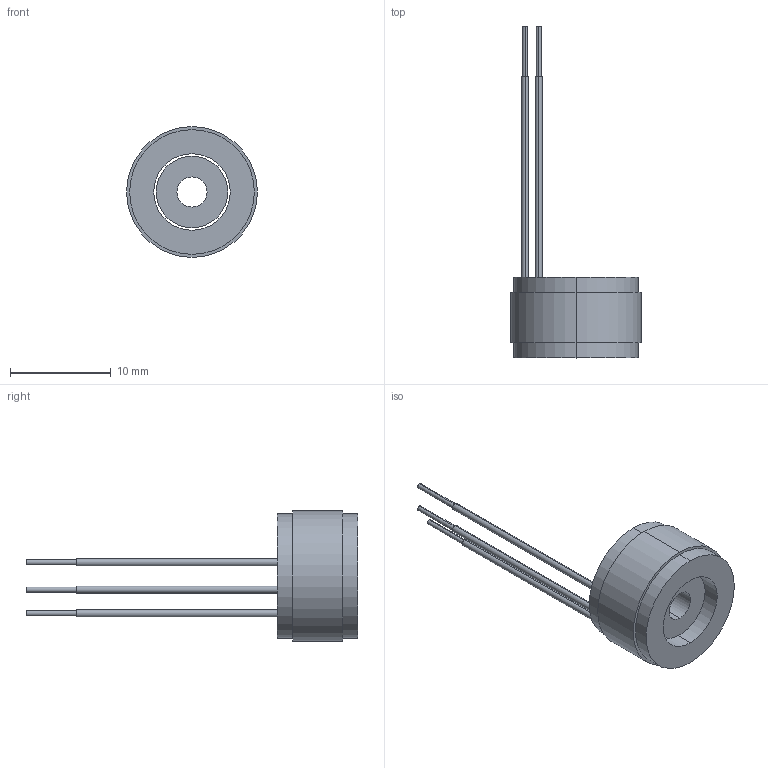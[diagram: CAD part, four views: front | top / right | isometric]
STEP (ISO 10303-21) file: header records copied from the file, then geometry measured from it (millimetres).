
FILE_DESCRIPTION (( 'STEP AP214' ), '1' );
FILE_NAME ('无框力矩电机 U01308000000 3D模型.STEP', '2026-10-15T08:26:24', ( 'Windows User' ), ( 'P R C' ), 'SwSTEP 2.0', 'SolidWorks 2023', '' );
FILE_SCHEMA (( 'AUTOMOTIVE_DESIGN' ));
Length unit declared in the file: millimetre
Products named in the file (1): 无框力矩电机 U01308000000 3D模型
Bounding box: 13 x 33 x 13 mm (x, y, z)
Volume: 854.9 mm3; surface area: 1069.2 mm2
Topology: 2 solids, 2 shells, 36 faces, 72 edges, 48 vertices
Faces by surface type: cylinder 24, plane 12
Entity records: 1004 total; most frequent: DIRECTION 194, CARTESIAN_POINT 157, ORIENTED_EDGE 144, AXIS2_PLACEMENT_3D 85, EDGE_CURVE 72, VERTEX_POINT 48, CIRCLE 48, EDGE_LOOP 48
